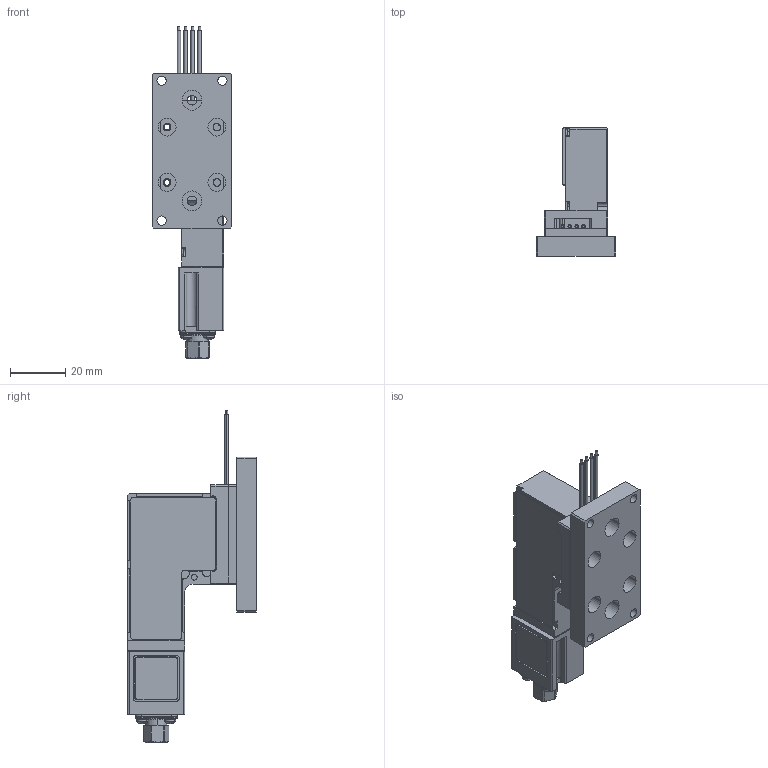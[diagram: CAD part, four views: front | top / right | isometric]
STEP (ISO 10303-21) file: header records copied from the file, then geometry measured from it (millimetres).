
FILE_DESCRIPTION (( 'STEP AP203' ), '1' );
FILE_NAME ('N211-LM-455-B40 -1-FC¹âÔ´20260528.STEP', '2026-05-28T02:01:25', ( '' ), ( '' ), 'SwSTEP 2.0', 'SolidWorks 2016', '' );
FILE_SCHEMA (( 'CONFIG_CONTROL_DESIGN' ));
Length unit declared in the file: millimetre
Products named in the file (1): N211-LM-455-B40 -1-FC嫖埭20260528
Bounding box: 28.6 x 46.4 x 119.9 mm (x, y, z)
Surface area: 17522.6 mm2 (no closed solid volume)
Topology: 0 solids, 22 shells, 415 faces, 1380 edges, 970 vertices
Faces by surface type: plane 197, cylinder 186, cone 12, bspline 12, sphere 8
Entity records: 16233 total; most frequent: CARTESIAN_POINT 4145, DIRECTION 2531, ORIENTED_EDGE 2335, EDGE_CURVE 1380, VERTEX_POINT 970, AXIS2_PLACEMENT_3D 900, LINE 731, VECTOR 731
